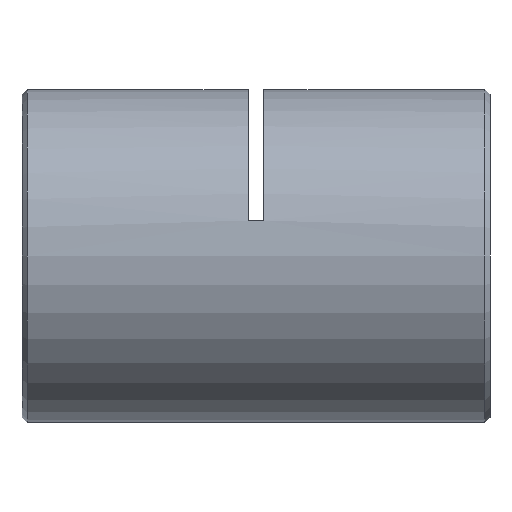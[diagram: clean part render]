
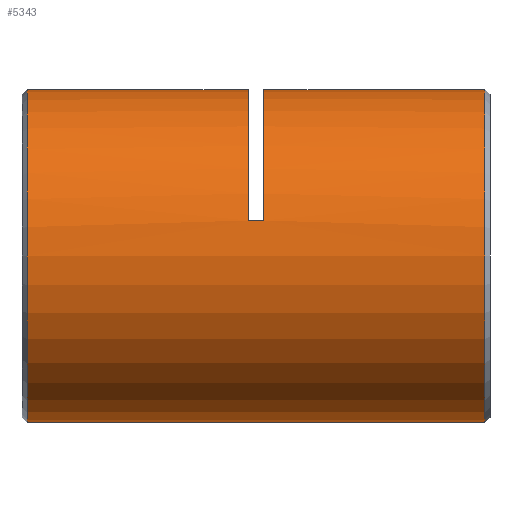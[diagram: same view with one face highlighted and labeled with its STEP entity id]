
A CAD part, left-side view. The second image highlights one B-rep face of the part: STEP entity #5343.
In plain terms, the highlighted cylindrical face has radius 16 mm (diameter 32 mm), a partial arc.
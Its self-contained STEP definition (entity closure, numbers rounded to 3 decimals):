
#32 = ORIENTED_EDGE ( 'NONE', *, *, #352, .F. ) ;
#109 = VERTEX_POINT ( 'NONE', #5884 ) ;
#154 = EDGE_LOOP ( 'NONE', ( #32, #1018, #3478, #5514, #1824, #5009, #3186, #1466 ) ) ;
#165 = CARTESIAN_POINT ( 'NONE',  ( 0., 0.75, 0. ) ) ;
#305 = FACE_OUTER_BOUND ( 'NONE', #154, .T. ) ;
#352 = EDGE_CURVE ( 'NONE', #109, #5244, #2640, .T. ) ;
#494 = AXIS2_PLACEMENT_3D ( 'NONE', #760, #2693, #1243 ) ;
#497 = CARTESIAN_POINT ( 'NONE',  ( -15.632, 22.75, 3.413 ) ) ;
#578 = AXIS2_PLACEMENT_3D ( 'NONE', #4289, #3811, #4813 ) ;
#597 = EDGE_CURVE ( 'NONE', #741, #3162, #6371, .T. ) ;
#738 = DIRECTION ( 'NONE',  ( 0., 1., 0. ) ) ;
#741 = VERTEX_POINT ( 'NONE', #5768 ) ;
#760 = CARTESIAN_POINT ( 'NONE',  ( 0., 0., 0. ) ) ;
#857 = CARTESIAN_POINT ( 'NONE',  ( 0., 23.5, 16. ) ) ;
#946 = DIRECTION ( 'NONE',  ( 0., 0., 1. ) ) ;
#971 = EDGE_CURVE ( 'NONE', #2154, #6130, #1943, .T. ) ;
#1018 = ORIENTED_EDGE ( 'NONE', *, *, #5600, .T. ) ;
#1219 = LINE ( 'NONE', #3180, #4792 ) ;
#1243 = DIRECTION ( 'NONE',  ( 0., 0., 1. ) ) ;
#1363 = CARTESIAN_POINT ( 'NONE',  ( -15.632, 22., 3.413 ) ) ;
#1435 = DIRECTION ( 'NONE',  ( 0., 1., 0. ) ) ;
#1466 = ORIENTED_EDGE ( 'NONE', *, *, #2963, .T. ) ;
#1474 = EDGE_CURVE ( 'NONE', #5467, #3505, #1219, .T. ) ;
#1567 = CARTESIAN_POINT ( 'NONE',  ( 0., 44.75, -16. ) ) ;
#1824 = ORIENTED_EDGE ( 'NONE', *, *, #971, .T. ) ;
#1943 = LINE ( 'NONE', #497, #3010 ) ;
#1951 = CARTESIAN_POINT ( 'NONE',  ( 0., 0., 16. ) ) ;
#2154 = VERTEX_POINT ( 'NONE', #1363 ) ;
#2186 = DIRECTION ( 'NONE',  ( 0., 0., 1. ) ) ;
#2383 = CARTESIAN_POINT ( 'NONE',  ( 0., 22., 16. ) ) ;
#2463 = DIRECTION ( 'NONE',  ( 0., 1., 0. ) ) ;
#2497 = AXIS2_PLACEMENT_3D ( 'NONE', #165, #2589, #2186 ) ;
#2557 = AXIS2_PLACEMENT_3D ( 'NONE', #3865, #1435, #946 ) ;
#2589 = DIRECTION ( 'NONE',  ( 0., 1., 0. ) ) ;
#2593 = VECTOR ( 'NONE', #3910, 1000. ) ;
#2640 = LINE ( 'NONE', #4356, #4131 ) ;
#2667 = EDGE_CURVE ( 'NONE', #6130, #5467, #4479, .T. ) ;
#2693 = DIRECTION ( 'NONE',  ( 0., 1., 0. ) ) ;
#2963 = EDGE_CURVE ( 'NONE', #3505, #5244, #5426, .T. ) ;
#3010 = VECTOR ( 'NONE', #2463, 1000. ) ;
#3044 = AXIS2_PLACEMENT_3D ( 'NONE', #4976, #3079, #3568 ) ;
#3079 = DIRECTION ( 'NONE',  ( 0., 1., 0. ) ) ;
#3162 = VERTEX_POINT ( 'NONE', #2383 ) ;
#3180 = CARTESIAN_POINT ( 'NONE',  ( 0., 0., 16. ) ) ;
#3186 = ORIENTED_EDGE ( 'NONE', *, *, #1474, .T. ) ;
#3419 = CARTESIAN_POINT ( 'NONE',  ( 0., 44.75, 16. ) ) ;
#3478 = ORIENTED_EDGE ( 'NONE', *, *, #597, .T. ) ;
#3505 = VERTEX_POINT ( 'NONE', #3419 ) ;
#3568 = DIRECTION ( 'NONE',  ( 0., 0., 1. ) ) ;
#3811 = DIRECTION ( 'NONE',  ( 0., -1., 0. ) ) ;
#3865 = CARTESIAN_POINT ( 'NONE',  ( 0., 22., 0. ) ) ;
#3910 = DIRECTION ( 'NONE',  ( 0., 1., 0. ) ) ;
#4131 = VECTOR ( 'NONE', #5291, 1000. ) ;
#4289 = CARTESIAN_POINT ( 'NONE',  ( 0., 44.75, 0. ) ) ;
#4356 = CARTESIAN_POINT ( 'NONE',  ( 0., 0., -16. ) ) ;
#4443 = EDGE_CURVE ( 'NONE', #2154, #3162, #5530, .T. ) ;
#4479 = CIRCLE ( 'NONE', #3044, 16. ) ;
#4644 = CYLINDRICAL_SURFACE ( 'NONE', #494, 16. ) ;
#4792 = VECTOR ( 'NONE', #738, 1000. ) ;
#4813 = DIRECTION ( 'NONE',  ( 0., 0., -1. ) ) ;
#4976 = CARTESIAN_POINT ( 'NONE',  ( 0., 23.5, 0. ) ) ;
#5009 = ORIENTED_EDGE ( 'NONE', *, *, #2667, .T. ) ;
#5244 = VERTEX_POINT ( 'NONE', #1567 ) ;
#5291 = DIRECTION ( 'NONE',  ( 0., 1., 0. ) ) ;
#5337 = CARTESIAN_POINT ( 'NONE',  ( -15.632, 23.5, 3.413 ) ) ;
#5343 = ADVANCED_FACE ( 'NONE', ( #305 ), #4644, .T. ) ;
#5426 = CIRCLE ( 'NONE', #578, 16. ) ;
#5467 = VERTEX_POINT ( 'NONE', #857 ) ;
#5514 = ORIENTED_EDGE ( 'NONE', *, *, #4443, .F. ) ;
#5530 = CIRCLE ( 'NONE', #2557, 16. ) ;
#5600 = EDGE_CURVE ( 'NONE', #109, #741, #6308, .T. ) ;
#5768 = CARTESIAN_POINT ( 'NONE',  ( 0., 0.75, 16. ) ) ;
#5884 = CARTESIAN_POINT ( 'NONE',  ( 0., 0.75, -16. ) ) ;
#6130 = VERTEX_POINT ( 'NONE', #5337 ) ;
#6308 = CIRCLE ( 'NONE', #2497, 16. ) ;
#6371 = LINE ( 'NONE', #1951, #2593 ) ;
